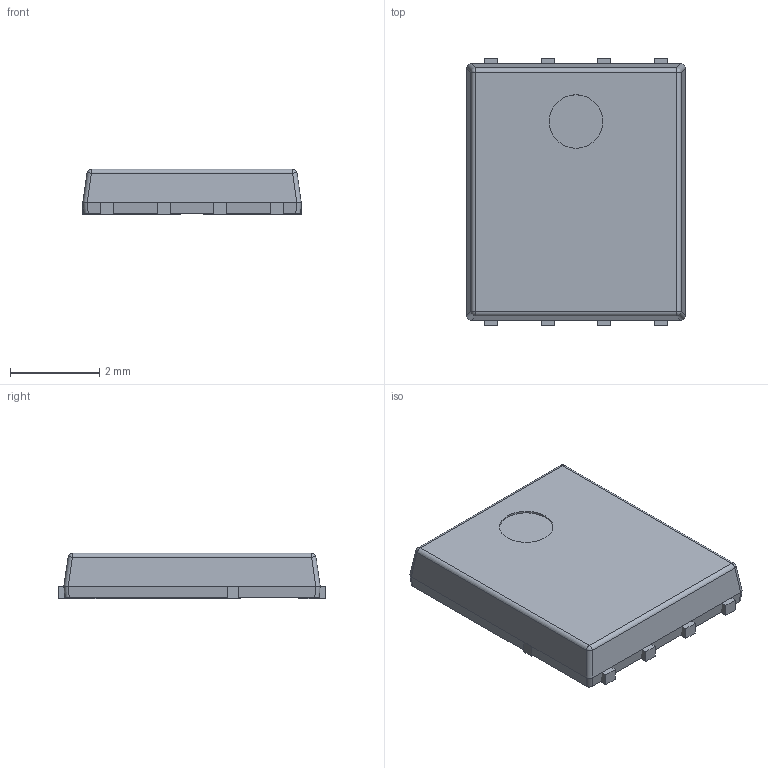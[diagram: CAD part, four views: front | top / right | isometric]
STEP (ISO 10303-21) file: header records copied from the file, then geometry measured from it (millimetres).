
FILE_DESCRIPTION(/* description */ ('Unknown'),/* implementation_level */ '2;1');
FILE_NAME(/* name */ '3D DFN5060B-8L',/* time_stamp */ '2026-08-25T11:17:10+08:00',/* author */ ('Unknown'),/* organization */ ('Unknown'),/* preprocessor_version */ 'ST-DEVELOPER v18.104',/* originating_system */ 'Solid Edge',/* authorisation */ 'Unknown');
FILE_SCHEMA (('AUTOMOTIVE_DESIGN {1 0 10303 214 3 1 1}'));
Length unit declared in the file: millimetre
Products named in the file (1): 3D DFN5060B-8L
Bounding box: 4.9 x 6 x 1.02 mm (x, y, z)
Surface area: 111.9 mm2
Topology: 7 solids, 7 shells, 140 faces, 367 edges, 238 vertices
Faces by surface type: plane 107, cylinder 29, sphere 4
Full cylindrical faces by diameter (mm): 1.2 x1
Entity records: 4281 total; most frequent: CARTESIAN_POINT 741, ORIENTED_EDGE 724, DIRECTION 698, EDGE_CURVE 362, LINE 308, VECTOR 308, VERTEX_POINT 238, AXIS2_PLACEMENT_3D 195
